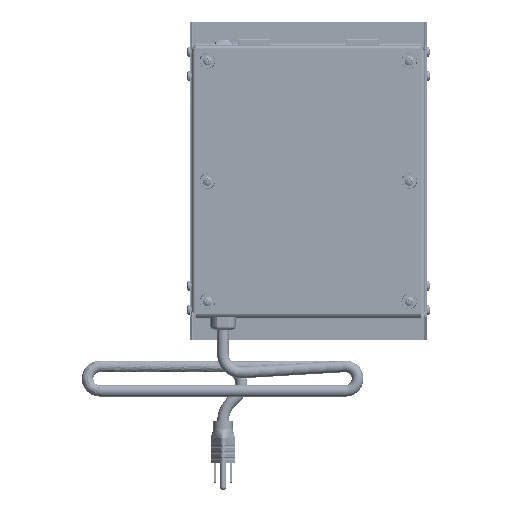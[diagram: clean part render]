
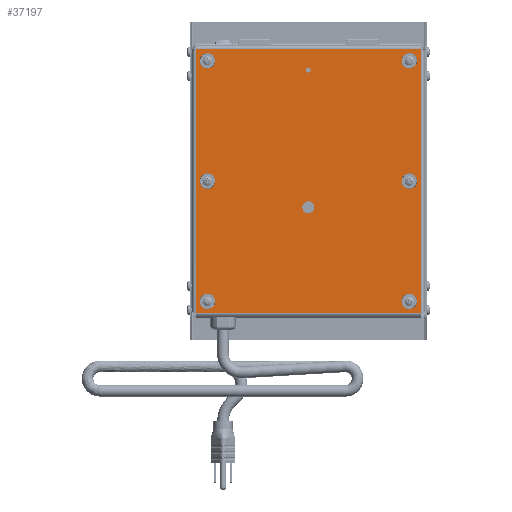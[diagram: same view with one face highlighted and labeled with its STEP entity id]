
A CAD part, front view. The second image highlights one B-rep face of the part: STEP entity #37197.
In plain terms, the highlighted planar face has unit normal (0, -1, 0).
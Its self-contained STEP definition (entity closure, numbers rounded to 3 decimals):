
#254=CIRCLE('',#38974,0.107);
#256=CIRCLE('',#38977,0.107);
#258=CIRCLE('',#38980,0.107);
#260=CIRCLE('',#38983,0.082);
#262=CIRCLE('',#38986,0.107);
#264=CIRCLE('',#38989,0.107);
#266=CIRCLE('',#38992,0.107);
#268=CIRCLE('',#38995,0.193);
#2843=FACE_BOUND('',#7660,.T.);
#2844=FACE_BOUND('',#7661,.T.);
#2845=FACE_BOUND('',#7662,.T.);
#2846=FACE_BOUND('',#7663,.T.);
#2847=FACE_BOUND('',#7664,.T.);
#2848=FACE_BOUND('',#7665,.T.);
#2849=FACE_BOUND('',#7666,.T.);
#2850=FACE_BOUND('',#7667,.T.);
#5734=FACE_OUTER_BOUND('',#7659,.T.);
#7659=EDGE_LOOP('',(#28594,#28595,#28596,#28597));
#7660=EDGE_LOOP('',(#28598));
#7661=EDGE_LOOP('',(#28599));
#7662=EDGE_LOOP('',(#28600));
#7663=EDGE_LOOP('',(#28601));
#7664=EDGE_LOOP('',(#28602));
#7665=EDGE_LOOP('',(#28603));
#7666=EDGE_LOOP('',(#28604));
#7667=EDGE_LOOP('',(#28605));
#11761=LINE('',#57738,#14711);
#11786=LINE('',#57965,#14736);
#11799=LINE('',#58072,#14749);
#11800=LINE('',#58074,#14750);
#14711=VECTOR('',#44570,0.394);
#14736=VECTOR('',#44631,0.394);
#14749=VECTOR('',#44678,0.394);
#14750=VECTOR('',#44681,0.394);
#17326=VERTEX_POINT('',#57341);
#17328=VERTEX_POINT('',#57347);
#17330=VERTEX_POINT('',#57353);
#17332=VERTEX_POINT('',#57359);
#17334=VERTEX_POINT('',#57365);
#17336=VERTEX_POINT('',#57371);
#17338=VERTEX_POINT('',#57377);
#17340=VERTEX_POINT('',#57383);
#17429=VERTEX_POINT('',#57729);
#17430=VERTEX_POINT('',#57737);
#17444=VERTEX_POINT('',#57956);
#17445=VERTEX_POINT('',#57964);
#21292=EDGE_CURVE('',#17326,#17326,#254,.T.);
#21295=EDGE_CURVE('',#17328,#17328,#256,.T.);
#21298=EDGE_CURVE('',#17330,#17330,#258,.T.);
#21301=EDGE_CURVE('',#17332,#17332,#260,.T.);
#21304=EDGE_CURVE('',#17334,#17334,#262,.T.);
#21307=EDGE_CURVE('',#17336,#17336,#264,.T.);
#21310=EDGE_CURVE('',#17338,#17338,#266,.T.);
#21313=EDGE_CURVE('',#17340,#17340,#268,.T.);
#21460=EDGE_CURVE('',#17430,#17429,#11761,.T.);
#21497=EDGE_CURVE('',#17445,#17444,#11786,.T.);
#21521=EDGE_CURVE('',#17444,#17430,#11799,.T.);
#21522=EDGE_CURVE('',#17429,#17445,#11800,.T.);
#28594=ORIENTED_EDGE('',*,*,#21460,.T.);
#28595=ORIENTED_EDGE('',*,*,#21522,.T.);
#28596=ORIENTED_EDGE('',*,*,#21497,.T.);
#28597=ORIENTED_EDGE('',*,*,#21521,.T.);
#28598=ORIENTED_EDGE('',*,*,#21292,.T.);
#28599=ORIENTED_EDGE('',*,*,#21295,.T.);
#28600=ORIENTED_EDGE('',*,*,#21298,.T.);
#28601=ORIENTED_EDGE('',*,*,#21301,.T.);
#28602=ORIENTED_EDGE('',*,*,#21304,.T.);
#28603=ORIENTED_EDGE('',*,*,#21307,.T.);
#28604=ORIENTED_EDGE('',*,*,#21310,.T.);
#28605=ORIENTED_EDGE('',*,*,#21313,.T.);
#35479=PLANE('',#39114);
#37197=ADVANCED_FACE('',(#5734,#2843,#2844,#2845,#2846,#2847,#2848,#2849,
#2850),#35479,.F.);
#38974=AXIS2_PLACEMENT_3D('',#57342,#44239,#44240);
#38977=AXIS2_PLACEMENT_3D('',#57348,#44246,#44247);
#38980=AXIS2_PLACEMENT_3D('',#57354,#44253,#44254);
#38983=AXIS2_PLACEMENT_3D('',#57360,#44260,#44261);
#38986=AXIS2_PLACEMENT_3D('',#57366,#44267,#44268);
#38989=AXIS2_PLACEMENT_3D('',#57372,#44274,#44275);
#38992=AXIS2_PLACEMENT_3D('',#57378,#44281,#44282);
#38995=AXIS2_PLACEMENT_3D('',#57384,#44288,#44289);
#39114=AXIS2_PLACEMENT_3D('',#58073,#44679,#44680);
#44239=DIRECTION('center_axis',(0.,1.,0.));
#44240=DIRECTION('ref_axis',(-1.,0.,0.));
#44246=DIRECTION('center_axis',(0.,1.,0.));
#44247=DIRECTION('ref_axis',(-1.,0.,0.));
#44253=DIRECTION('center_axis',(0.,1.,0.));
#44254=DIRECTION('ref_axis',(-1.,0.,0.));
#44260=DIRECTION('center_axis',(0.,1.,0.));
#44261=DIRECTION('ref_axis',(-1.,0.,0.));
#44267=DIRECTION('center_axis',(0.,1.,0.));
#44268=DIRECTION('ref_axis',(-1.,0.,0.));
#44274=DIRECTION('center_axis',(0.,1.,0.));
#44275=DIRECTION('ref_axis',(-1.,0.,0.));
#44281=DIRECTION('center_axis',(0.,1.,0.));
#44282=DIRECTION('ref_axis',(-1.,0.,0.));
#44288=DIRECTION('center_axis',(0.,1.,0.));
#44289=DIRECTION('ref_axis',(-1.,0.,0.));
#44570=DIRECTION('',(0.,0.,-1.));
#44631=DIRECTION('',(0.,0.,1.));
#44678=DIRECTION('',(-1.,0.,0.));
#44679=DIRECTION('center_axis',(0.,1.,0.));
#44680=DIRECTION('ref_axis',(0.,0.,1.));
#44681=DIRECTION('',(1.,0.,0.));
#57341=CARTESIAN_POINT('',(-3.144,0.,3.875));
#57342=CARTESIAN_POINT('Origin',(-3.25,0.,3.875));
#57347=CARTESIAN_POINT('',(3.357,0.,0.));
#57348=CARTESIAN_POINT('Origin',(3.25,0.,0.));
#57353=CARTESIAN_POINT('',(-3.144,0.,-3.875));
#57354=CARTESIAN_POINT('Origin',(-3.25,0.,-3.875));
#57359=CARTESIAN_POINT('',(0.082,0.,3.578));
#57360=CARTESIAN_POINT('Origin',(0.,0.,3.578));
#57365=CARTESIAN_POINT('',(-3.144,0.,0.));
#57366=CARTESIAN_POINT('Origin',(-3.25,0.,0.));
#57371=CARTESIAN_POINT('',(3.357,0.,-3.875));
#57372=CARTESIAN_POINT('Origin',(3.25,0.,-3.875));
#57377=CARTESIAN_POINT('',(3.357,0.,3.875));
#57378=CARTESIAN_POINT('Origin',(3.25,0.,3.875));
#57383=CARTESIAN_POINT('',(0.193,0.,-0.846));
#57384=CARTESIAN_POINT('Origin',(0.,0.,-0.846));
#57729=CARTESIAN_POINT('',(-3.63,0.,-4.255));
#57737=CARTESIAN_POINT('',(-3.63,0.,4.255));
#57738=CARTESIAN_POINT('',(-3.63,0.,2.128));
#57956=CARTESIAN_POINT('',(3.63,0.,4.255));
#57964=CARTESIAN_POINT('',(3.63,0.,-4.255));
#57965=CARTESIAN_POINT('',(3.63,0.,-2.128));
#58072=CARTESIAN_POINT('',(1.875,0.,4.255));
#58073=CARTESIAN_POINT('Origin',(0.,0.,0.));
#58074=CARTESIAN_POINT('',(-1.875,0.,-4.255));
